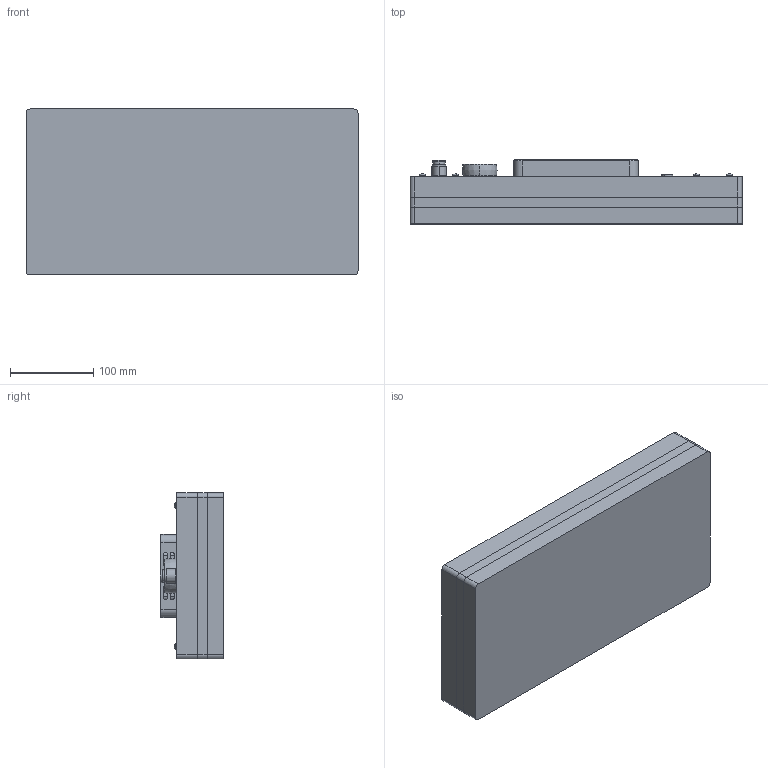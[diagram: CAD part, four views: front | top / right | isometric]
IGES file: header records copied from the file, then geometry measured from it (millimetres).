
Start section: SolidWorks IGES file using analytic representation for surfaces
Global section: file name: E:\鼎达信\Products\0-海绵吸具\标准吸具\TVC200X400\内置真空发生器\TVC200X400_C_S_IN V1.0\TVC200X400_IN.IGS; native system: SolidWorks 2014; preprocessor: SolidWorks 2014; author: Administrator; date: 170330.213156; units: millimetre
Bounding box: 400 x 77 x 200 mm (x, y, z)
Volume: 4870105.6 mm3; surface area: 601246 mm2
Topology: 4 solids, 6 shells, 571 faces, 1443 edges, 936 vertices
Faces by surface type: plane 308, revolution 263
